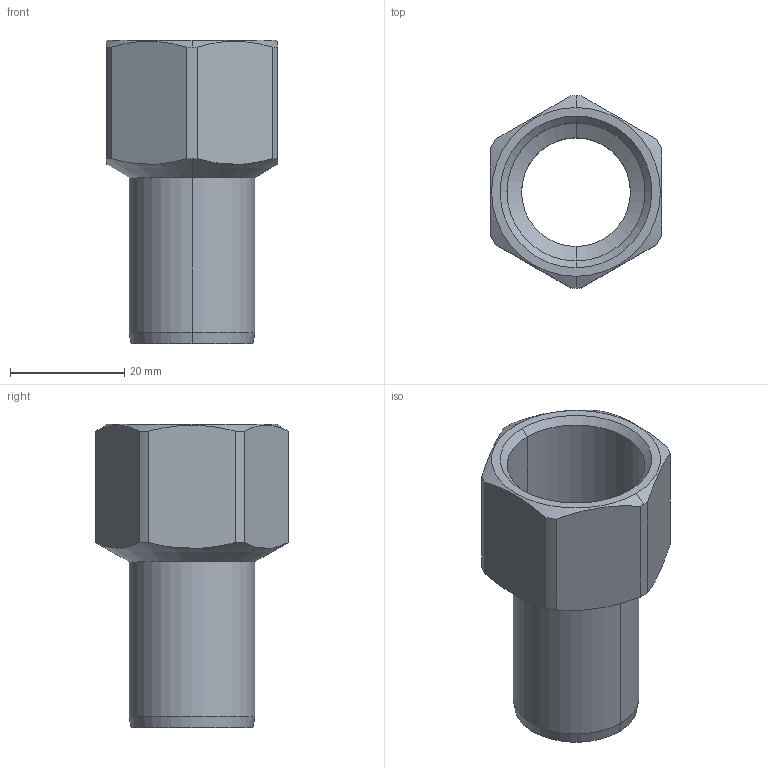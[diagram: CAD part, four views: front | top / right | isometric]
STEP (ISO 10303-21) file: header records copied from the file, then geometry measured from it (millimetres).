
FILE_DESCRIPTION(('OneSpaceDesigner STEP Export'),'2;1');
FILE_NAME('C1433 22xRp3-4.stp','2010-06-15T16:44:44',(''),(''),'OneSpace Designer STEP processor for AP214 (Solid Model)','OneSpace Modeling 15.00A 14-Mar-2007 (C) CoCreate Software GmbH','');
FILE_SCHEMA(('AUTOMOTIVE_DESIGN { 1 0 10303 214 1 1 1 1 }'));
Length unit declared in the file: millimetre
Products named in the file (1): C1433_22xRp3-4
Bounding box: 30 x 33.6 x 53 mm (x, y, z)
Volume: 10342.9 mm3; surface area: 8527.6 mm2
Topology: 1 solids, 1 shells, 30 faces, 74 edges, 46 vertices
Faces by surface type: cylinder 12, cone 10, plane 8
Entity records: 1719 total; most frequent: CARTESIAN_POINT 1048, ORIENTED_EDGE 148, DIRECTION 116, EDGE_CURVE 74, VERTEX_POINT 46, AXIS2_PLACEMENT_3D 44, EDGE_LOOP 32, FACE_OUTER_BOUND 30
